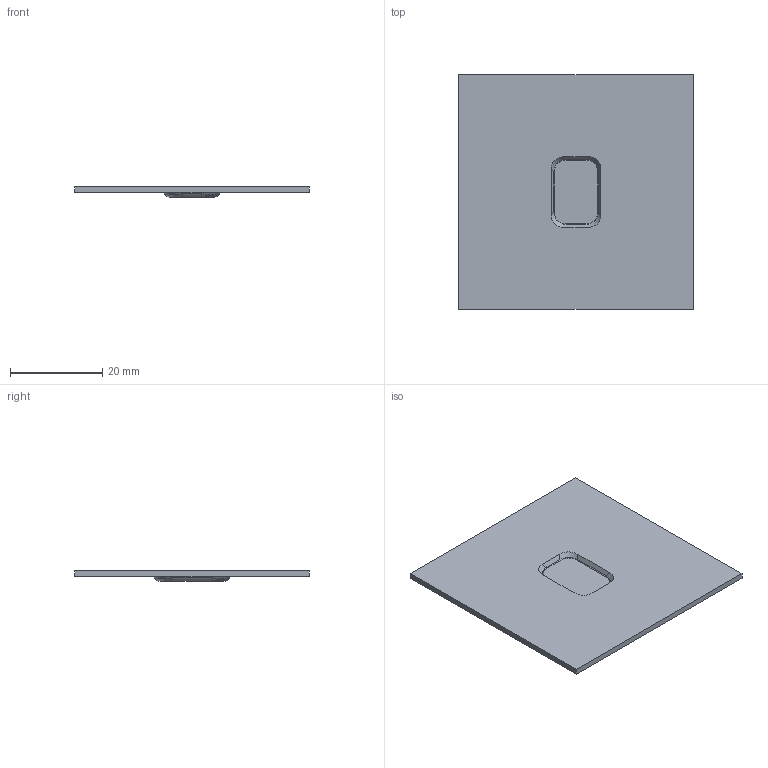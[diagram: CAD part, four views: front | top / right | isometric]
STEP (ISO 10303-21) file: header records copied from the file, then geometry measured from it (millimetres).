
FILE_DESCRIPTION(('PART XYZ REV A'),'1');
FILE_NAME('EF12','2012-03-30T22:20:12',('ERIC'),('TRIAX'),'Spatial Interop R21 SP3','Kubotek KeyCreator 2011 V10.5.0 (24766)','CHAZ');
FILE_SCHEMA(('CONFIG_CONTROL_DESIGN'));
Length unit declared in the file: inch
Products named in the file (1): 1
Bounding box: 50.79 x 50.8 x 2.29 mm (x, y, z)
Volume: 3305.2 mm3; surface area: 5462.7 mm2
Topology: 1 solids, 1 shells, 40 faces, 92 edges, 56 vertices
Faces by surface type: plane 16, cylinder 16, bspline 8
Entity records: 1620 total; most frequent: CARTESIAN_POINT 741, ORIENTED_EDGE 184, DIRECTION 150, EDGE_CURVE 92, VERTEX_POINT 56, LINE 52, VECTOR 52, AXIS2_PLACEMENT_3D 49
